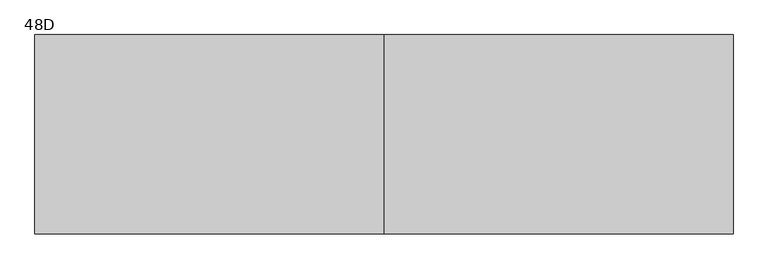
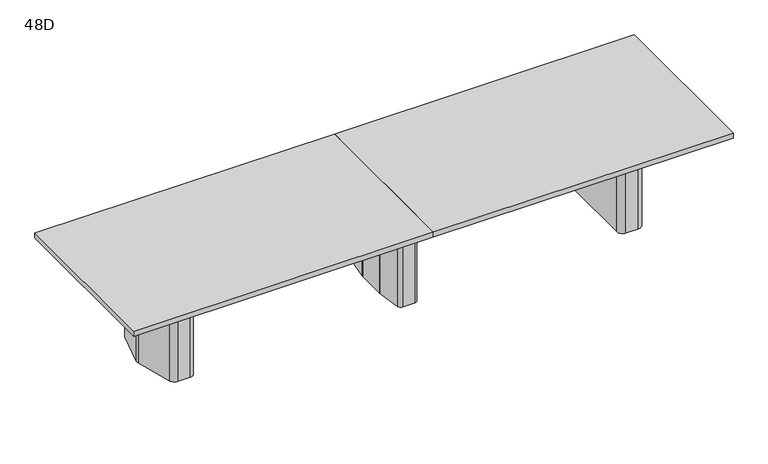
"""IFC4 building model written with IfcOpenShell, lengths in millimetres: furniture geometry, Coalesse_AM_Table_Conference_ETable2_Rectangular_14ft_ThreeBase : 48D."""

from ifc_helpers import new_model, si_unit, frame, origin, place, context, project, spatial, polyline, circle_curve, outline, extrude, source, transform, mapped, element, save
from ifc_brep_helpers import plane_surface, cylinder_surface, revolved_surface, advanced_brep


def furniture_48d_ae206274(model_context):
    return source(origin(), model_context, "Body", "SolidModel", [
        advanced_brep(
        [(35.71875, 206.375, 3.175), (10.31875, 231.775, 3.175), (-10.31875, 231.775, 3.175), (-35.71875, 206.375, 3.175), (-35.71875, -206.375, 3.175), (-10.31875, -231.775, 3.175), (10.31875, -231.775, 3.175), (35.71875, -206.375, 3.175), (-61.11875, 206.375, 0.0), (-10.31875, 257.175, 0.0), (10.31875, 257.175, 0.0), (61.11875, 206.375, 0.0), (61.11875, -206.375, 0.0), (10.31875, -257.175, 0.0), (-10.31875, -257.175, 0.0), (-61.11875, -206.375, 0.0), (-61.11875, -206.375, 3.175), (-61.11875, 206.375, 3.175), (-10.31875, -257.175, 3.175), (10.31875, -257.175, 3.175), (61.11875, -206.375, 3.175), (61.11875, 206.375, 3.175), (10.31875, 257.175, 3.175), (-10.31875, 257.175, 3.175), (-92.6215974, 106.2976848, 698.5), (-92.86875, 102.7629613, 698.5), (-92.86875, -102.7629613, 698.5), (-92.6215974, -106.2976848, 698.5), (-67.7988375, -282.9347235, 698.5), (-42.6459902, -304.8, 698.5), (42.6459902, -304.8, 698.5), (67.7988375, -282.9347235, 698.5), (92.6215974, -106.2976848, 698.5), (92.86875, -102.7629613, 698.5), (92.86875, 102.7629613, 698.5), (92.6215974, 106.2976848, 698.5), (67.7988375, 282.9347235, 698.5), (42.6459902, 304.8, 698.5), (-42.6459902, 304.8, 698.5), (-67.7988375, 282.9347235, 698.5), (10.31875, 231.775, 698.5), (35.71875, 206.375, 698.5), (35.71875, -206.375, 698.5), (10.31875, -231.775, 698.5), (-10.31875, -231.775, 698.5), (-35.71875, -206.375, 698.5), (-35.71875, 206.375, 698.5), (-10.31875, 231.775, 698.5), (-92.6215974, 106.2976848, 3.175), (-67.7988375, 282.9347235, 3.175), (-42.6459902, 304.8, 3.175), (42.6459902, 304.8, 3.175), (67.7988375, 282.9347235, 3.175), (92.6215974, 106.2976848, 3.175), (92.86875, 102.7629613, 3.175), (92.86875, -102.7629613, 3.175), (92.6215974, -106.2976848, 3.175), (67.7988375, -282.9347235, 3.175), (42.6459902, -304.8, 3.175), (-42.6459902, -304.8, 3.175), (-67.7988375, -282.9347235, 3.175), (-92.6215974, -106.2976848, 3.175), (-92.86875, -102.7629613, 3.175), (-92.86875, 102.7629613, 3.175)],
        [
            (0, 1, circle_curve(frame((10.31875, 206.375, 3.175), z_axis=(0.0, 0.0, 1.0), x_axis=(1.0, 0.0, 0.0)), 25.4)),
            (1, 2),
            (2, 3, circle_curve(frame((-10.31875, 206.375, 3.175), z_axis=(0.0, 0.0, 1.0), x_axis=(1.0, 0.0, 0.0)), 25.4)),
            (3, 4),
            (4, 5, circle_curve(frame((-10.31875, -206.375, 3.175), z_axis=(0.0, 0.0, 1.0), x_axis=(1.0, 0.0, 0.0)), 25.4)),
            (5, 6),
            (6, 7, circle_curve(frame((10.31875, -206.375, 3.175), z_axis=(0.0, 0.0, 1.0), x_axis=(1.0, 0.0, 0.0)), 25.4)),
            (7, 0),
            (8, 9, circle_curve(frame((-10.31875, 206.375, 0.0), z_axis=(0.0, 0.0, -1.0), x_axis=(1.0, 0.0, 0.0)), 50.8)),
            (9, 10),
            (10, 11, circle_curve(frame((10.31875, 206.375, 0.0), z_axis=(0.0, 0.0, -1.0), x_axis=(1.0, 0.0, 0.0)), 50.8)),
            (11, 12),
            (12, 13, circle_curve(frame((10.31875, -206.375, 0.0), z_axis=(0.0, 0.0, -1.0), x_axis=(1.0, 0.0, 0.0)), 50.8)),
            (13, 14),
            (14, 15, circle_curve(frame((-10.31875, -206.375, 0.0), z_axis=(0.0, 0.0, -1.0), x_axis=(1.0, 0.0, 0.0)), 50.8)),
            (15, 8),
            (15, 16),
            (16, 17),
            (17, 8),
            (14, 18),
            (18, 16, circle_curve(frame((-10.31875, -206.375, 3.175), z_axis=(0.0, 0.0, -1.0), x_axis=(1.0, 0.0, 0.0)), 50.8)),
            (13, 19),
            (19, 18),
            (12, 20),
            (20, 19, circle_curve(frame((10.31875, -206.375, 3.175), z_axis=(0.0, 0.0, -1.0), x_axis=(1.0, 0.0, 0.0)), 50.8)),
            (11, 21),
            (21, 20),
            (10, 22),
            (22, 21, circle_curve(frame((10.31875, 206.375, 3.175), z_axis=(0.0, 0.0, -1.0), x_axis=(1.0, 0.0, 0.0)), 50.8)),
            (9, 23),
            (23, 22),
            (17, 23, circle_curve(frame((-10.31875, 206.375, 3.175), z_axis=(0.0, 0.0, -1.0), x_axis=(1.0, 0.0, 0.0)), 50.8)),
            (24, 25, circle_curve(frame((-67.46875, 102.7629613, 698.5), z_axis=(0.0, 0.0, 1.0), x_axis=(1.0, 0.0, 0.0)), 25.4)),
            (25, 26),
            (26, 27, circle_curve(frame((-67.46875, -102.7629613, 698.5), z_axis=(0.0, 0.0, 1.0), x_axis=(1.0, 0.0, 0.0)), 25.4)),
            (27, 28),
            (28, 29, circle_curve(frame((-42.6459902, -279.4, 698.5), z_axis=(0.0, 0.0, 1.0), x_axis=(1.0, 0.0, 0.0)), 25.4)),
            (29, 30),
            (30, 31, circle_curve(frame((42.6459902, -279.4, 698.5), z_axis=(0.0, 0.0, 1.0), x_axis=(1.0, 0.0, 0.0)), 25.4)),
            (31, 32),
            (32, 33, circle_curve(frame((67.46875, -102.7629613, 698.5), z_axis=(0.0, 0.0, 1.0), x_axis=(1.0, 0.0, 0.0)), 25.4)),
            (33, 34),
            (34, 35, circle_curve(frame((67.46875, 102.7629613, 698.5), z_axis=(0.0, 0.0, 1.0), x_axis=(1.0, 0.0, 0.0)), 25.4)),
            (35, 36),
            (36, 37, circle_curve(frame((42.6459902, 279.4, 698.5), z_axis=(0.0, 0.0, 1.0), x_axis=(1.0, 0.0, 0.0)), 25.4)),
            (37, 38),
            (38, 39, circle_curve(frame((-42.6459902, 279.4, 698.5), z_axis=(0.0, 0.0, 1.0), x_axis=(1.0, 0.0, 0.0)), 25.4)),
            (39, 24),
            (40, 41, circle_curve(frame((10.31875, 206.375, 698.5), z_axis=(0.0, 0.0, -1.0), x_axis=(1.0, 0.0, 0.0)), 25.4)),
            (41, 42),
            (42, 43, circle_curve(frame((10.31875, -206.375, 698.5), z_axis=(0.0, 0.0, -1.0), x_axis=(1.0, 0.0, 0.0)), 25.4)),
            (43, 44),
            (44, 45, circle_curve(frame((-10.31875, -206.375, 698.5), z_axis=(0.0, 0.0, -1.0), x_axis=(1.0, 0.0, 0.0)), 25.4)),
            (45, 46),
            (46, 47, circle_curve(frame((-10.31875, 206.375, 698.5), z_axis=(0.0, 0.0, -1.0), x_axis=(1.0, 0.0, 0.0)), 25.4)),
            (47, 40),
            (48, 49),
            (49, 50, circle_curve(frame((-42.6459902, 279.4, 3.175), z_axis=(0.0, 0.0, -1.0), x_axis=(1.0, 0.0, 0.0)), 25.4)),
            (50, 51),
            (51, 52, circle_curve(frame((42.6459902, 279.4, 3.175), z_axis=(0.0, 0.0, -1.0), x_axis=(1.0, 0.0, 0.0)), 25.4)),
            (52, 53),
            (53, 54, circle_curve(frame((67.46875, 102.7629613, 3.175), z_axis=(0.0, 0.0, -1.0), x_axis=(1.0, 0.0, 0.0)), 25.4)),
            (54, 55),
            (55, 56, circle_curve(frame((67.46875, -102.7629613, 3.175), z_axis=(0.0, 0.0, -1.0), x_axis=(1.0, 0.0, 0.0)), 25.4)),
            (56, 57),
            (57, 58, circle_curve(frame((42.6459902, -279.4, 3.175), z_axis=(0.0, 0.0, -1.0), x_axis=(1.0, 0.0, 0.0)), 25.4)),
            (58, 59),
            (59, 60, circle_curve(frame((-42.6459902, -279.4, 3.175), z_axis=(0.0, 0.0, -1.0), x_axis=(1.0, 0.0, 0.0)), 25.4)),
            (60, 61),
            (61, 62, circle_curve(frame((-67.46875, -102.7629613, 3.175), z_axis=(0.0, 0.0, -1.0), x_axis=(1.0, 0.0, 0.0)), 25.4)),
            (62, 63),
            (63, 48, circle_curve(frame((-67.46875, 102.7629613, 3.175), z_axis=(0.0, 0.0, -1.0), x_axis=(1.0, 0.0, 0.0)), 25.4)),
            (24, 48),
            (63, 25),
            (62, 26),
            (61, 27),
            (60, 28),
            (59, 29),
            (58, 30),
            (57, 31),
            (56, 32),
            (55, 33),
            (54, 34),
            (53, 35),
            (52, 36),
            (51, 37),
            (50, 38),
            (49, 39),
            (40, 1),
            (0, 41),
            (7, 42),
            (6, 43),
            (5, 44),
            (4, 45),
            (3, 46),
            (2, 47),
        ],
        [
            plane_surface(frame((-61.11875, -206.375, 3.175), z_axis=(0.0, 0.0, 1.0), x_axis=(0.0, -1.0, 0.0))),
            plane_surface(frame((-61.11875, -206.375, 0.0), z_axis=(0.0, 0.0, -1.0), x_axis=(0.0, 1.0, 0.0))),
            plane_surface(frame((-61.11875, 206.375, 3.175), z_axis=(-1.0, 0.0, 0.0), x_axis=(0.0, 0.0, -1.0))),
            cylinder_surface(frame((-10.31875, -206.375, 0.0), z_axis=(0.0, 0.0, 1.0), x_axis=(1.0, 0.0, 0.0)), 50.8),
            plane_surface(frame((-10.31875, -257.175, 3.175), z_axis=(0.0, -1.0, 0.0), x_axis=(0.0, 0.0, -1.0))),
            cylinder_surface(frame((10.31875, -206.375, 0.0), z_axis=(0.0, 0.0, 1.0), x_axis=(1.0, 0.0, 0.0)), 50.8),
            plane_surface(frame((61.11875, -206.375, 3.175), z_axis=(1.0, 0.0, 0.0), x_axis=(0.0, 0.0, -1.0))),
            cylinder_surface(frame((10.31875, 206.375, 0.0), z_axis=(0.0, 0.0, 1.0), x_axis=(1.0, 0.0, 0.0)), 50.8),
            plane_surface(frame((10.31875, 257.175, 3.175), z_axis=(0.0, 1.0, 0.0), x_axis=(0.0, 0.0, -1.0))),
            cylinder_surface(frame((-10.31875, 206.375, 0.0), z_axis=(0.0, 0.0, 1.0), x_axis=(1.0, 0.0, 0.0)), 50.8),
            plane_surface(frame((-42.06875, 102.7629613, 698.5), z_axis=(0.0, 0.0, 1.0), x_axis=(0.0, 1.0, 0.0))),
            plane_surface(frame((-42.06875, 102.7629613, 3.175), z_axis=(0.0, 0.0, -1.0), x_axis=(0.0, -1.0, 0.0))),
            cylinder_surface(frame((-67.46875, 102.7629613, 3.175), z_axis=(0.0, 0.0, 1.0), x_axis=(1.0, 0.0, 0.0)), 25.4),
            plane_surface(frame((-92.86875, 102.7629613, 698.5), z_axis=(-1.0, 0.0, 0.0), x_axis=(0.0, 0.0, -1.0))),
            cylinder_surface(frame((-67.46875, -102.7629613, 3.175), z_axis=(0.0, 0.0, 1.0), x_axis=(1.0, 0.0, 0.0)), 25.4),
            plane_surface(frame((-92.6215974, -106.2976848, 698.5), z_axis=(-0.9902695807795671, -0.13916234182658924, 0.0), x_axis=(0.0, 0.0, -1.0))),
            cylinder_surface(frame((-42.6459902, -279.4, 3.175), z_axis=(0.0, 0.0, 1.0), x_axis=(1.0, 0.0, 0.0)), 25.4),
            plane_surface(frame((-42.6459902, -304.8, 698.5), z_axis=(0.0, -1.0, 0.0), x_axis=(0.0, 0.0, -1.0))),
            cylinder_surface(frame((42.6459902, -279.4, 3.175), z_axis=(0.0, 0.0, 1.0), x_axis=(1.0, 0.0, 0.0)), 25.4),
            plane_surface(frame((67.7988375, -282.9347235, 698.5), z_axis=(0.9902695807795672, -0.13916234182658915, 0.0), x_axis=(0.0, 0.0, -1.0))),
            cylinder_surface(frame((67.46875, -102.7629613, 3.175), z_axis=(0.0, 0.0, 1.0), x_axis=(1.0, 0.0, 0.0)), 25.4),
            plane_surface(frame((92.86875, -102.7629613, 698.5), z_axis=(1.0, 0.0, 0.0), x_axis=(0.0, 0.0, -1.0))),
            cylinder_surface(frame((67.46875, 102.7629613, 3.175), z_axis=(0.0, 0.0, 1.0), x_axis=(1.0, 0.0, 0.0)), 25.4),
            plane_surface(frame((92.6215974, 106.2976848, 698.5), z_axis=(0.9902695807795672, 0.1391623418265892, 0.0), x_axis=(0.0, 0.0, -1.0))),
            cylinder_surface(frame((42.6459902, 279.4, 3.175), z_axis=(0.0, 0.0, 1.0), x_axis=(1.0, 0.0, 0.0)), 25.4),
            plane_surface(frame((42.6459902, 304.8, 698.5), z_axis=(0.0, 1.0, 0.0), x_axis=(0.0, 0.0, -1.0))),
            cylinder_surface(frame((-42.6459902, 279.4, 3.175), z_axis=(0.0, 0.0, 1.0), x_axis=(1.0, 0.0, 0.0)), 25.4),
            plane_surface(frame((-67.7988375, 282.9347235, 698.5), z_axis=(-0.9902695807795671, 0.13916234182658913, 0.0), x_axis=(0.0, 0.0, -1.0))),
            revolved_surface(polyline([(35.71875, 206.375, 3.175), (35.71875, 206.375, 698.5)]), (10.31875, 206.375, 0.0), (0.0, 0.0, -1.0)),
            plane_surface(frame((35.71875, 206.375, 698.5), z_axis=(-1.0, 0.0, 0.0), x_axis=(0.0, 0.0, -1.0))),
            revolved_surface(polyline([(35.71875, -206.375, 3.175), (35.71875, -206.375, 698.5)]), (10.31875, -206.375, 0.0), (0.0, 0.0, -1.0)),
            plane_surface(frame((10.31875, -231.775, 698.5), z_axis=(0.0, 1.0, 0.0), x_axis=(0.0, 0.0, -1.0))),
            revolved_surface(polyline([(15.081249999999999, -206.375, 3.175), (15.081249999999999, -206.375, 698.5)]), (-10.31875, -206.375, 0.0), (0.0, 0.0, -1.0)),
            plane_surface(frame((-35.71875, -206.375, 698.5), z_axis=(1.0, 0.0, 0.0), x_axis=(0.0, 0.0, -1.0))),
            revolved_surface(polyline([(15.081249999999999, 206.375, 3.175), (15.081249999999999, 206.375, 698.5)]), (-10.31875, 206.375, 0.0), (0.0, 0.0, -1.0)),
            plane_surface(frame((-10.31875, 231.775, 698.5), z_axis=(0.0, -1.0, 0.0), x_axis=(0.0, 0.0, -1.0))),
        ],
        [
            (0, [[1, 2, 3, 4, 5, 6, 7, 8]]),
            (1, [[9, 10, 11, 12, 13, 14, 15, 16]]),
            (2, [[-16, 17, 18, 19]]),
            (3, [[-15, 20, 21, -17]]),
            (4, [[-14, 22, 23, -20]]),
            (5, [[-13, 24, 25, -22]]),
            (6, [[-12, 26, 27, -24]]),
            (7, [[-11, 28, 29, -26]]),
            (8, [[-10, 30, 31, -28]]),
            (9, [[-9, -19, 32, -30]]),
            (10, [[33, 34, 35, 36, 37, 38, 39, 40, 41, 42, 43, 44, 45, 46, 47, 48], [49, 50, 51, 52, 53, 54, 55, 56]]),
            (11, [[57, 58, 59, 60, 61, 62, 63, 64, 65, 66, 67, 68, 69, 70, 71, 72], [-18, -21, -23, -25, -27, -29, -31, -32]]),
            (12, [[-33, 73, -72, 74]]),
            (13, [[-34, -74, -71, 75]]),
            (14, [[-35, -75, -70, 76]]),
            (15, [[-36, -76, -69, 77]]),
            (16, [[-37, -77, -68, 78]]),
            (17, [[-38, -78, -67, 79]]),
            (18, [[-39, -79, -66, 80]]),
            (19, [[-40, -80, -65, 81]]),
            (20, [[-41, -81, -64, 82]]),
            (21, [[-42, -82, -63, 83]]),
            (22, [[-43, -83, -62, 84]]),
            (23, [[-44, -84, -61, 85]]),
            (24, [[-45, -85, -60, 86]]),
            (25, [[-46, -86, -59, 87]]),
            (26, [[-47, -87, -58, 88]]),
            (27, [[-48, -88, -57, -73]]),
            (28, [[-49, 89, -1, 90]]),
            (29, [[-50, -90, -8, 91]]),
            (30, [[-51, -91, -7, 92]]),
            (31, [[-52, -92, -6, 93]]),
            (32, [[-53, -93, -5, 94]]),
            (33, [[-54, -94, -4, 95]]),
            (34, [[-55, -95, -3, 96]]),
            (35, [[-56, -96, -2, -89]]),
        ],
    ),
        advanced_brep(
        [(1675.024548, 274.2093613, 698.5), (1635.1579246, 304.8, 698.5), (1546.225, 304.8, 698.5), (1504.95, 263.525, 698.5), (1504.95, -263.525, 698.5), (1546.225, -304.8, 698.5), (1635.1579246, -304.8, 698.5), (1675.024548, -274.2093613, 698.5), (1745.6503901, -10.6333708, 698.5), (1745.6503901, 10.6333708, 698.5), (1543.05, -206.375, 698.5), (1543.05, 206.375, 698.5), (1568.45, 231.775, 698.5), (1627.4608422, 231.775, 698.5), (1651.995338, 212.9490792, 698.5), (1690.6875, 68.54974, 698.5), (1690.6875, -68.54974, 698.5), (1651.995338, -212.9490792, 698.5), (1627.4608422, -231.775, 698.5), (1568.45, -231.775, 698.5), (1675.024548, 274.2093613, 3.175), (1745.6503901, 10.6333708, 3.175), (1745.6503901, -10.6333708, 3.175), (1675.024548, -274.2093613, 3.175), (1635.1579246, -304.8, 3.175), (1546.225, -304.8, 3.175), (1504.95, -263.525, 3.175), (1504.95, 263.525, 3.175), (1546.225, 304.8, 3.175), (1635.1579246, 304.8, 3.175), (1664.2625859, 216.2361187, 3.175), (1627.4608422, 244.475, 3.175), (1568.45, 244.475, 3.175), (1530.35, 206.375, 3.175), (1530.35, -206.375, 3.175), (1568.45, -244.475, 3.175), (1627.4608422, -244.475, 3.175), (1664.2625859, -216.2361187, 3.175), (1703.3875, -70.2217466, 3.175), (1703.3875, 70.2217466, 3.175), (1568.45, -231.775, 3.175), (1543.05, -206.375, 3.175), (1627.4608422, -231.775, 3.175), (1651.995338, -212.9490792, 3.175), (1690.6875, -68.54974, 3.175), (1690.6875, 68.54974, 3.175), (1651.995338, 212.9490792, 3.175), (1627.4608422, 231.775, 3.175), (1568.45, 231.775, 3.175), (1543.05, 206.375, 3.175), (1664.2625859, 216.2361187, 0.0), (1703.3875, 70.2217466, 0.0), (1703.3875, -70.2217466, 0.0), (1664.2625859, -216.2361187, 0.0), (1627.4608422, -244.475, 0.0), (1568.45, -244.475, 0.0), (1530.35, -206.375, 0.0), (1530.35, 206.375, 0.0), (1568.45, 244.475, 0.0), (1627.4608422, 244.475, 0.0)],
        [
            (0, 1, circle_curve(frame((1635.1579246, 263.5270004, 698.5), z_axis=(0.0, 0.0, 1.0), x_axis=(-1.0, 0.0, 0.0)), 41.2729996)),
            (1, 2),
            (2, 3, circle_curve(frame((1546.225, 263.525, 698.5), z_axis=(0.0, 0.0, 1.0), x_axis=(-1.0, 0.0, 0.0)), 41.275)),
            (3, 4),
            (4, 5, circle_curve(frame((1546.225, -263.525, 698.5), z_axis=(0.0, 0.0, 1.0), x_axis=(-1.0, 0.0, 0.0)), 41.275)),
            (5, 6),
            (6, 7, circle_curve(frame((1635.1579246, -263.5270004, 698.5), z_axis=(0.0, 0.0, 1.0), x_axis=(-1.0, 0.0, 0.0)), 41.2729996)),
            (7, 8),
            (8, 9, circle_curve(frame((1705.9665979, 0.0, 698.5), z_axis=(0.0, 0.0, 1.0), x_axis=(-1.0, 0.0, 0.0)), 41.0837187)),
            (9, 0),
            (10, 11),
            (11, 12, circle_curve(frame((1568.45, 206.375, 698.5), z_axis=(0.0, 0.0, -1.0), x_axis=(-1.0, 0.0, 0.0)), 25.4)),
            (12, 13),
            (13, 14, circle_curve(frame((1627.4608422, 206.375, 698.5), z_axis=(0.0, 0.0, -1.0), x_axis=(-1.0, 0.0, 0.0)), 25.4)),
            (14, 15),
            (15, 16),
            (16, 17),
            (17, 18, circle_curve(frame((1627.4608422, -206.375, 698.5), z_axis=(0.0, 0.0, -1.0), x_axis=(-1.0, 0.0, 0.0)), 25.4)),
            (18, 19),
            (19, 10, circle_curve(frame((1568.45, -206.375, 698.5), z_axis=(0.0, 0.0, -1.0), x_axis=(-1.0, 0.0, 0.0)), 25.4)),
            (20, 21),
            (21, 22, circle_curve(frame((1705.9665979, 0.0, 3.175), z_axis=(0.0, 0.0, -1.0), x_axis=(-1.0, 0.0, 0.0)), 41.0837187)),
            (22, 23),
            (23, 24, circle_curve(frame((1635.1579246, -263.5270004, 3.175), z_axis=(0.0, 0.0, -1.0), x_axis=(-1.0, 0.0, 0.0)), 41.2729996)),
            (24, 25),
            (25, 26, circle_curve(frame((1546.225, -263.525, 3.175), z_axis=(0.0, 0.0, -1.0), x_axis=(-1.0, 0.0, 0.0)), 41.275)),
            (26, 27),
            (27, 28, circle_curve(frame((1546.225, 263.525, 3.175), z_axis=(0.0, 0.0, -1.0), x_axis=(-1.0, 0.0, 0.0)), 41.275)),
            (28, 29),
            (29, 20, circle_curve(frame((1635.1579246, 263.5270004, 3.175), z_axis=(0.0, 0.0, -1.0), x_axis=(-1.0, 0.0, 0.0)), 41.2729996)),
            (30, 31, circle_curve(frame((1627.4608422, 206.375, 3.175), z_axis=(0.0, 0.0, 1.0), x_axis=(-1.0, 0.0, 0.0)), 38.1)),
            (31, 32),
            (32, 33, circle_curve(frame((1568.45, 206.375, 3.175), z_axis=(0.0, 0.0, 1.0), x_axis=(-1.0, 0.0, 0.0)), 38.1)),
            (33, 34),
            (34, 35, circle_curve(frame((1568.45, -206.375, 3.175), z_axis=(0.0, 0.0, 1.0), x_axis=(-1.0, 0.0, 0.0)), 38.1)),
            (35, 36),
            (36, 37, circle_curve(frame((1627.4608422, -206.375, 3.175), z_axis=(0.0, 0.0, 1.0), x_axis=(-1.0, 0.0, 0.0)), 38.1)),
            (37, 38),
            (38, 39),
            (39, 30),
            (9, 21),
            (20, 0),
            (8, 22),
            (7, 23),
            (6, 24),
            (5, 25),
            (4, 26),
            (3, 27),
            (2, 28),
            (1, 29),
            (19, 40),
            (40, 41, circle_curve(frame((1568.45, -206.375, 3.175), z_axis=(0.0, 0.0, -1.0), x_axis=(-1.0, 0.0, 0.0)), 25.4)),
            (41, 10),
            (18, 42),
            (42, 40),
            (17, 43),
            (43, 42, circle_curve(frame((1627.4608422, -206.375, 3.175), z_axis=(0.0, 0.0, -1.0), x_axis=(-1.0, 0.0, 0.0)), 25.4)),
            (16, 44),
            (44, 43),
            (15, 45),
            (45, 44),
            (14, 46),
            (46, 45),
            (13, 47),
            (47, 46, circle_curve(frame((1627.4608422, 206.375, 3.175), z_axis=(0.0, 0.0, -1.0), x_axis=(-1.0, 0.0, 0.0)), 25.4)),
            (12, 48),
            (48, 47),
            (11, 49),
            (49, 48, circle_curve(frame((1568.45, 206.375, 3.175), z_axis=(0.0, 0.0, -1.0), x_axis=(-1.0, 0.0, 0.0)), 25.4)),
            (41, 49),
            (50, 51),
            (51, 52),
            (52, 53),
            (53, 54, circle_curve(frame((1627.4608422, -206.375, 0.0), z_axis=(0.0, 0.0, -1.0), x_axis=(-1.0, 0.0, 0.0)), 38.1)),
            (54, 55),
            (55, 56, circle_curve(frame((1568.45, -206.375, 0.0), z_axis=(0.0, 0.0, -1.0), x_axis=(-1.0, 0.0, 0.0)), 38.1)),
            (56, 57),
            (57, 58, circle_curve(frame((1568.45, 206.375, 0.0), z_axis=(0.0, 0.0, -1.0), x_axis=(-1.0, 0.0, 0.0)), 38.1)),
            (58, 59),
            (59, 50, circle_curve(frame((1627.4608422, 206.375, 0.0), z_axis=(0.0, 0.0, -1.0), x_axis=(-1.0, 0.0, 0.0)), 38.1)),
            (50, 30),
            (39, 51),
            (38, 52),
            (37, 53),
            (36, 54),
            (35, 55),
            (34, 56),
            (33, 57),
            (32, 58),
            (31, 59),
        ],
        [
            plane_surface(frame((1745.6374275, 10.6817473, 698.5), z_axis=(0.0, 0.0, 1.0000000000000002), x_axis=(0.25882201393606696, -0.9659250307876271, 0.0))),
            plane_surface(frame((1745.6374275, 10.6817473, 3.175), z_axis=(0.0, 0.0, -1.0000000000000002), x_axis=(-0.25882201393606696, 0.9659250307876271, 0.0))),
            plane_surface(frame((1675.024548, 274.2093613, 698.5), z_axis=(0.9659250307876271, 0.25882201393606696, 0.0), x_axis=(0.0, 0.0, -1.0))),
            cylinder_surface(frame((1705.9665979, 0.0, 3.175), z_axis=(0.0, 0.0, 1.0), x_axis=(-1.0, 0.0, 0.0)), 41.0837187),
            plane_surface(frame((1745.6503901, -10.6333708, 698.5), z_axis=(0.9659250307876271, -0.2588220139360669, 0.0), x_axis=(0.0, 0.0, -1.0))),
            cylinder_surface(frame((1635.1579246, -263.5270004, 3.175), z_axis=(0.0, 0.0, 1.0), x_axis=(-1.0, 0.0, 0.0)), 41.2729996),
            plane_surface(frame((1635.1579246, -304.8, 698.5), z_axis=(0.0, -1.0, 0.0), x_axis=(0.0, 0.0, -1.0))),
            cylinder_surface(frame((1546.225, -263.525, 3.175), z_axis=(0.0, 0.0, 1.0), x_axis=(-1.0, 0.0, 0.0)), 41.275),
            plane_surface(frame((1504.95, -263.525, 698.5), z_axis=(-1.0, 0.0, 0.0), x_axis=(0.0, 0.0, -1.0))),
            cylinder_surface(frame((1546.225, 263.525, 3.175), z_axis=(0.0, 0.0, 1.0), x_axis=(-1.0, 0.0, 0.0)), 41.275),
            plane_surface(frame((1546.225, 304.8, 698.5), z_axis=(0.0, 1.0, 0.0), x_axis=(0.0, 0.0, -1.0))),
            cylinder_surface(frame((1635.1579246, 263.5270004, 3.175), z_axis=(0.0, 0.0, 1.0), x_axis=(-1.0, 0.0, 0.0)), 41.2729996),
            revolved_surface(polyline([(1543.05, -206.375, 3.175), (1543.05, -206.375, 698.5)]), (1568.45, -206.375, 0.0), (0.0, 0.0, -1.0)),
            plane_surface(frame((1568.45, -231.775, 698.5), z_axis=(0.0, 1.0, 0.0), x_axis=(0.0, 0.0, -1.0))),
            revolved_surface(polyline([(1602.0608421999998, -206.375, 3.175), (1602.0608421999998, -206.375, 698.5)]), (1627.4608422, -206.375, 0.0), (0.0, 0.0, -1.0)),
            plane_surface(frame((1651.995338, -212.9490792, 698.5), z_axis=(-0.9659250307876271, 0.2588220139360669, 0.0), x_axis=(0.0, 0.0, -1.0))),
            plane_surface(frame((1690.6875, -68.54974, 698.5), z_axis=(-1.0, 0.0, 0.0), x_axis=(0.0, 0.0, -1.0))),
            plane_surface(frame((1690.6875, 68.54974, 698.5), z_axis=(-0.9659250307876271, -0.25882201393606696, 0.0), x_axis=(0.0, 0.0, -1.0))),
            revolved_surface(polyline([(1602.0608421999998, 206.375, 3.175), (1602.0608421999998, 206.375, 698.5)]), (1627.4608422, 206.375, 0.0), (0.0, 0.0, -1.0)),
            plane_surface(frame((1627.4608422, 231.775, 698.5), z_axis=(0.0, -1.0, 0.0), x_axis=(0.0, 0.0, -1.0))),
            revolved_surface(polyline([(1543.05, 206.375, 3.175), (1543.05, 206.375, 698.5)]), (1568.45, 206.375, 0.0), (0.0, 0.0, -1.0)),
            plane_surface(frame((1543.05, 206.375, 698.5), z_axis=(1.0, 0.0, 0.0), x_axis=(0.0, 0.0, -1.0))),
            plane_surface(frame((1702.9547479, 71.8367796, 3.175), z_axis=(0.0, 0.0, 1.0), x_axis=(0.25882201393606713, -0.965925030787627, 0.0))),
            plane_surface(frame((1702.9547479, 71.8367796, 0.0), z_axis=(0.0, 0.0, -1.0), x_axis=(-0.25882201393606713, 0.965925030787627, 0.0))),
            plane_surface(frame((1664.2625859, 216.2361187, 3.175), z_axis=(0.965925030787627, 0.25882201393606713, 0.0), x_axis=(0.0, 0.0, -1.0))),
            plane_surface(frame((1703.3875, 70.2217466, 3.175), z_axis=(1.0, 0.0, 0.0), x_axis=(0.0, 0.0, -1.0))),
            plane_surface(frame((1703.3875, -70.2217466, 3.175), z_axis=(0.9659250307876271, -0.2588220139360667, 0.0), x_axis=(0.0, 0.0, -1.0))),
            cylinder_surface(frame((1627.4608422, -206.375, 0.0), z_axis=(0.0, 0.0, 1.0), x_axis=(-1.0, 0.0, 0.0)), 38.1),
            plane_surface(frame((1627.4608422, -244.475, 3.175), z_axis=(0.0, -1.0, 0.0), x_axis=(0.0, 0.0, -1.0))),
            cylinder_surface(frame((1568.45, -206.375, 0.0), z_axis=(0.0, 0.0, 1.0), x_axis=(-1.0, 0.0, 0.0)), 38.1),
            plane_surface(frame((1530.35, -206.375, 3.175), z_axis=(-1.0, 0.0, 0.0), x_axis=(0.0, 0.0, -1.0))),
            cylinder_surface(frame((1568.45, 206.375, 0.0), z_axis=(0.0, 0.0, 1.0), x_axis=(-1.0, 0.0, 0.0)), 38.1),
            plane_surface(frame((1568.45, 244.475, 3.175), z_axis=(0.0, 1.0, 0.0), x_axis=(0.0, 0.0, -1.0))),
            cylinder_surface(frame((1627.4608422, 206.375, 0.0), z_axis=(0.0, 0.0, 1.0), x_axis=(-1.0, 0.0, 0.0)), 38.1),
        ],
        [
            (0, [[1, 2, 3, 4, 5, 6, 7, 8, 9, 10], [11, 12, 13, 14, 15, 16, 17, 18, 19, 20]]),
            (1, [[21, 22, 23, 24, 25, 26, 27, 28, 29, 30], [31, 32, 33, 34, 35, 36, 37, 38, 39, 40]]),
            (2, [[41, -21, 42, -10]]),
            (3, [[43, -22, -41, -9]]),
            (4, [[44, -23, -43, -8]]),
            (5, [[45, -24, -44, -7]]),
            (6, [[46, -25, -45, -6]]),
            (7, [[47, -26, -46, -5]]),
            (8, [[48, -27, -47, -4]]),
            (9, [[49, -28, -48, -3]]),
            (10, [[50, -29, -49, -2]]),
            (11, [[-42, -30, -50, -1]]),
            (12, [[51, 52, 53, -20]]),
            (13, [[54, 55, -51, -19]]),
            (14, [[56, 57, -54, -18]]),
            (15, [[58, 59, -56, -17]]),
            (16, [[60, 61, -58, -16]]),
            (17, [[62, 63, -60, -15]]),
            (18, [[64, 65, -62, -14]]),
            (19, [[66, 67, -64, -13]]),
            (20, [[68, 69, -66, -12]]),
            (21, [[-53, 70, -68, -11]]),
            (22, [[-55, -57, -59, -61, -63, -65, -67, -69, -70, -52]]),
            (23, [[71, 72, 73, 74, 75, 76, 77, 78, 79, 80]]),
            (24, [[81, -40, 82, -71]]),
            (25, [[-82, -39, 83, -72]]),
            (26, [[-83, -38, 84, -73]]),
            (27, [[-84, -37, 85, -74]]),
            (28, [[-85, -36, 86, -75]]),
            (29, [[-86, -35, 87, -76]]),
            (30, [[-87, -34, 88, -77]]),
            (31, [[-88, -33, 89, -78]]),
            (32, [[-89, -32, 90, -79]]),
            (33, [[-90, -31, -81, -80]]),
        ],
    ),
        advanced_brep(
        [(-1686.137048, 274.2093613, 698.5), (-1756.7628901, 10.6333708, 698.5), (-1756.7628901, -10.6333708, 698.5), (-1686.137048, -274.2093613, 698.5), (-1646.2704246, -304.8, 698.5), (-1557.3375, -304.8, 698.5), (-1516.0625, -263.525, 698.5), (-1516.0625, 263.525, 698.5), (-1557.3375, 304.8, 698.5), (-1646.2704246, 304.8, 698.5), (-1554.1625, -206.375, 698.5), (-1579.5625, -231.775, 698.5), (-1638.5733422, -231.775, 698.5), (-1663.107838, -212.9490792, 698.5), (-1701.8, -68.54974, 698.5), (-1701.8, 68.54974, 698.5), (-1663.107838, 212.9490792, 698.5), (-1638.5733422, 231.775, 698.5), (-1579.5625, 231.775, 698.5), (-1554.1625, 206.375, 698.5), (-1686.137048, 274.2093613, 3.175), (-1646.2704246, 304.8, 3.175), (-1557.3375, 304.8, 3.175), (-1516.0625, 263.525, 3.175), (-1516.0625, -263.525, 3.175), (-1557.3375, -304.8, 3.175), (-1646.2704246, -304.8, 3.175), (-1686.137048, -274.2093613, 3.175), (-1756.7628901, -10.6333708, 3.175), (-1756.7628901, 10.6333708, 3.175), (-1675.3750859, 216.2361187, 3.175), (-1714.5, 70.2217466, 3.175), (-1714.5, -70.2217466, 3.175), (-1675.3750859, -216.2361187, 3.175), (-1638.5733422, -244.475, 3.175), (-1579.5625, -244.475, 3.175), (-1541.4625, -206.375, 3.175), (-1541.4625, 206.375, 3.175), (-1579.5625, 244.475, 3.175), (-1638.5733422, 244.475, 3.175), (-1554.1625, -206.375, 3.175), (-1579.5625, -231.775, 3.175), (-1638.5733422, -231.775, 3.175), (-1663.107838, -212.9490792, 3.175), (-1701.8, -68.54974, 3.175), (-1701.8, 68.54974, 3.175), (-1663.107838, 212.9490792, 3.175), (-1638.5733422, 231.775, 3.175), (-1579.5625, 231.775, 3.175), (-1554.1625, 206.375, 3.175), (-1675.3750859, 216.2361187, 0.0), (-1638.5733422, 244.475, 0.0), (-1579.5625, 244.475, 0.0), (-1541.4625, 206.375, 0.0), (-1541.4625, -206.375, 0.0), (-1579.5625, -244.475, 0.0), (-1638.5733422, -244.475, 0.0), (-1675.3750859, -216.2361187, 0.0), (-1714.5, -70.2217466, 0.0), (-1714.5, 70.2217466, 0.0)],
        [
            (0, 1),
            (1, 2, circle_curve(frame((-1717.0790979, 0.0, 698.5), z_axis=(0.0, 0.0, 1.0), x_axis=(1.0, 0.0, 0.0)), 41.0837187)),
            (2, 3),
            (3, 4, circle_curve(frame((-1646.2704246, -263.5270004, 698.5), z_axis=(0.0, 0.0, 1.0), x_axis=(1.0, 0.0, 0.0)), 41.2729996)),
            (4, 5),
            (5, 6, circle_curve(frame((-1557.3375, -263.525, 698.5), z_axis=(0.0, 0.0, 1.0), x_axis=(1.0, 0.0, 0.0)), 41.275)),
            (6, 7),
            (7, 8, circle_curve(frame((-1557.3375, 263.525, 698.5), z_axis=(0.0, 0.0, 1.0), x_axis=(1.0, 0.0, 0.0)), 41.275)),
            (8, 9),
            (9, 0, circle_curve(frame((-1646.2704246, 263.5270004, 698.5), z_axis=(0.0, 0.0, 1.0), x_axis=(1.0, 0.0, 0.0)), 41.2729996)),
            (10, 11, circle_curve(frame((-1579.5625, -206.375, 698.5), z_axis=(0.0, 0.0, -1.0), x_axis=(1.0, 0.0, 0.0)), 25.4)),
            (11, 12),
            (12, 13, circle_curve(frame((-1638.5733422, -206.375, 698.5), z_axis=(0.0, 0.0, -1.0), x_axis=(1.0, 0.0, 0.0)), 25.4)),
            (13, 14),
            (14, 15),
            (15, 16),
            (16, 17, circle_curve(frame((-1638.5733422, 206.375, 698.5), z_axis=(0.0, 0.0, -1.0), x_axis=(1.0, 0.0, 0.0)), 25.4)),
            (17, 18),
            (18, 19, circle_curve(frame((-1579.5625, 206.375, 698.5), z_axis=(0.0, 0.0, -1.0), x_axis=(1.0, 0.0, 0.0)), 25.4)),
            (19, 10),
            (20, 21, circle_curve(frame((-1646.2704246, 263.5270004, 3.175), z_axis=(0.0, 0.0, -1.0), x_axis=(1.0, 0.0, 0.0)), 41.2729996)),
            (21, 22),
            (22, 23, circle_curve(frame((-1557.3375, 263.525, 3.175), z_axis=(0.0, 0.0, -1.0), x_axis=(1.0, 0.0, 0.0)), 41.275)),
            (23, 24),
            (24, 25, circle_curve(frame((-1557.3375, -263.525, 3.175), z_axis=(0.0, 0.0, -1.0), x_axis=(1.0, 0.0, 0.0)), 41.275)),
            (25, 26),
            (26, 27, circle_curve(frame((-1646.2704246, -263.5270004, 3.175), z_axis=(0.0, 0.0, -1.0), x_axis=(1.0, 0.0, 0.0)), 41.2729996)),
            (27, 28),
            (28, 29, circle_curve(frame((-1717.0790979, 0.0, 3.175), z_axis=(0.0, 0.0, -1.0), x_axis=(1.0, 0.0, 0.0)), 41.0837187)),
            (29, 20),
            (30, 31),
            (31, 32),
            (32, 33),
            (33, 34, circle_curve(frame((-1638.5733422, -206.375, 3.175), z_axis=(0.0, 0.0, 1.0), x_axis=(1.0, 0.0, 0.0)), 38.1)),
            (34, 35),
            (35, 36, circle_curve(frame((-1579.5625, -206.375, 3.175), z_axis=(0.0, 0.0, 1.0), x_axis=(1.0, 0.0, 0.0)), 38.1)),
            (36, 37),
            (37, 38, circle_curve(frame((-1579.5625, 206.375, 3.175), z_axis=(0.0, 0.0, 1.0), x_axis=(1.0, 0.0, 0.0)), 38.1)),
            (38, 39),
            (39, 30, circle_curve(frame((-1638.5733422, 206.375, 3.175), z_axis=(0.0, 0.0, 1.0), x_axis=(1.0, 0.0, 0.0)), 38.1)),
            (0, 20),
            (29, 1),
            (28, 2),
            (27, 3),
            (26, 4),
            (25, 5),
            (24, 6),
            (23, 7),
            (22, 8),
            (21, 9),
            (10, 40),
            (40, 41, circle_curve(frame((-1579.5625, -206.375, 3.175), z_axis=(0.0, 0.0, -1.0), x_axis=(1.0, 0.0, 0.0)), 25.4)),
            (41, 11),
            (41, 42),
            (42, 12),
            (42, 43, circle_curve(frame((-1638.5733422, -206.375, 3.175), z_axis=(0.0, 0.0, -1.0), x_axis=(1.0, 0.0, 0.0)), 25.4)),
            (43, 13),
            (43, 44),
            (44, 14),
            (44, 45),
            (45, 15),
            (45, 46),
            (46, 16),
            (46, 47, circle_curve(frame((-1638.5733422, 206.375, 3.175), z_axis=(0.0, 0.0, -1.0), x_axis=(1.0, 0.0, 0.0)), 25.4)),
            (47, 17),
            (47, 48),
            (48, 18),
            (48, 49, circle_curve(frame((-1579.5625, 206.375, 3.175), z_axis=(0.0, 0.0, -1.0), x_axis=(1.0, 0.0, 0.0)), 25.4)),
            (49, 19),
            (49, 40),
            (50, 51, circle_curve(frame((-1638.5733422, 206.375, 0.0), z_axis=(0.0, 0.0, -1.0), x_axis=(1.0, 0.0, 0.0)), 38.1)),
            (51, 52),
            (52, 53, circle_curve(frame((-1579.5625, 206.375, 0.0), z_axis=(0.0, 0.0, -1.0), x_axis=(1.0, 0.0, 0.0)), 38.1)),
            (53, 54),
            (54, 55, circle_curve(frame((-1579.5625, -206.375, 0.0), z_axis=(0.0, 0.0, -1.0), x_axis=(1.0, 0.0, 0.0)), 38.1)),
            (55, 56),
            (56, 57, circle_curve(frame((-1638.5733422, -206.375, 0.0), z_axis=(0.0, 0.0, -1.0), x_axis=(1.0, 0.0, 0.0)), 38.1)),
            (57, 58),
            (58, 59),
            (59, 50),
            (59, 31),
            (30, 50),
            (58, 32),
            (57, 33),
            (56, 34),
            (55, 35),
            (54, 36),
            (53, 37),
            (52, 38),
            (51, 39),
        ],
        [
            plane_surface(frame((-1756.7499275, 10.6817473, 698.5), z_axis=(0.0, 0.0, 1.0000000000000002), x_axis=(-0.25882201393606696, -0.9659250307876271, 0.0))),
            plane_surface(frame((-1756.7499275, 10.6817473, 3.175), z_axis=(0.0, 0.0, -1.0000000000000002), x_axis=(0.25882201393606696, 0.9659250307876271, 0.0))),
            plane_surface(frame((-1686.137048, 274.2093613, 698.5), z_axis=(-0.9659250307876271, 0.25882201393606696, 0.0), x_axis=(0.0, 0.0, -1.0))),
            cylinder_surface(frame((-1717.0790979, 0.0, 3.175), z_axis=(0.0, 0.0, 1.0), x_axis=(1.0, 0.0, 0.0)), 41.0837187),
            plane_surface(frame((-1756.7628901, -10.6333708, 698.5), z_axis=(-0.9659250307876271, -0.2588220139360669, 0.0), x_axis=(0.0, 0.0, -1.0))),
            cylinder_surface(frame((-1646.2704246, -263.5270004, 3.175), z_axis=(0.0, 0.0, 1.0), x_axis=(1.0, 0.0, 0.0)), 41.2729996),
            plane_surface(frame((-1646.2704246, -304.8, 698.5), z_axis=(0.0, -1.0, 0.0), x_axis=(0.0, 0.0, -1.0))),
            cylinder_surface(frame((-1557.3375, -263.525, 3.175), z_axis=(0.0, 0.0, 1.0), x_axis=(1.0, 0.0, 0.0)), 41.275),
            plane_surface(frame((-1516.0625, -263.525, 698.5), z_axis=(1.0, 0.0, 0.0), x_axis=(0.0, 0.0, -1.0))),
            cylinder_surface(frame((-1557.3375, 263.525, 3.175), z_axis=(0.0, 0.0, 1.0), x_axis=(1.0, 0.0, 0.0)), 41.275),
            plane_surface(frame((-1557.3375, 304.8, 698.5), z_axis=(0.0, 1.0, 0.0), x_axis=(0.0, 0.0, -1.0))),
            cylinder_surface(frame((-1646.2704246, 263.5270004, 3.175), z_axis=(0.0, 0.0, 1.0), x_axis=(1.0, 0.0, 0.0)), 41.2729996),
            revolved_surface(polyline([(-1554.1625, -206.375, 3.175), (-1554.1625, -206.375, 698.5)]), (-1579.5625, -206.375, 0.0), (0.0, 0.0, -1.0)),
            plane_surface(frame((-1579.5625, -231.775, 698.5), z_axis=(0.0, 1.0, 0.0), x_axis=(0.0, 0.0, -1.0))),
            revolved_surface(polyline([(-1613.1733422, -206.375, 3.175), (-1613.1733422, -206.375, 698.5)]), (-1638.5733422, -206.375, 0.0), (0.0, 0.0, -1.0)),
            plane_surface(frame((-1663.107838, -212.9490792, 698.5), z_axis=(0.9659250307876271, 0.2588220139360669, 0.0), x_axis=(0.0, 0.0, -1.0))),
            plane_surface(frame((-1701.8, -68.54974, 698.5), z_axis=(1.0, 0.0, 0.0), x_axis=(0.0, 0.0, -1.0))),
            plane_surface(frame((-1701.8, 68.54974, 698.5), z_axis=(0.9659250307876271, -0.25882201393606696, 0.0), x_axis=(0.0, 0.0, -1.0))),
            revolved_surface(polyline([(-1613.1733422, 206.375, 3.175), (-1613.1733422, 206.375, 698.5)]), (-1638.5733422, 206.375, 0.0), (0.0, 0.0, -1.0)),
            plane_surface(frame((-1638.5733422, 231.775, 698.5), z_axis=(0.0, -1.0, 0.0), x_axis=(0.0, 0.0, -1.0))),
            revolved_surface(polyline([(-1554.1625, 206.375, 3.175), (-1554.1625, 206.375, 698.5)]), (-1579.5625, 206.375, 0.0), (0.0, 0.0, -1.0)),
            plane_surface(frame((-1554.1625, 206.375, 698.5), z_axis=(-1.0, 0.0, 0.0), x_axis=(0.0, 0.0, -1.0))),
            plane_surface(frame((-1714.0672479, 71.8367796, 3.175), z_axis=(0.0, 0.0, 1.0), x_axis=(-0.25882201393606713, -0.965925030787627, 0.0))),
            plane_surface(frame((-1714.0672479, 71.8367796, 0.0), z_axis=(0.0, 0.0, -1.0), x_axis=(0.25882201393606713, 0.965925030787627, 0.0))),
            plane_surface(frame((-1675.3750859, 216.2361187, 3.175), z_axis=(-0.965925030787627, 0.25882201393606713, 0.0), x_axis=(0.0, 0.0, -1.0))),
            plane_surface(frame((-1714.5, 70.2217466, 3.175), z_axis=(-1.0, 0.0, 0.0), x_axis=(0.0, 0.0, -1.0))),
            plane_surface(frame((-1714.5, -70.2217466, 3.175), z_axis=(-0.9659250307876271, -0.2588220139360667, 0.0), x_axis=(0.0, 0.0, -1.0))),
            cylinder_surface(frame((-1638.5733422, -206.375, 0.0), z_axis=(0.0, 0.0, 1.0), x_axis=(1.0, 0.0, 0.0)), 38.1),
            plane_surface(frame((-1638.5733422, -244.475, 3.175), z_axis=(0.0, -1.0, 0.0), x_axis=(0.0, 0.0, -1.0))),
            cylinder_surface(frame((-1579.5625, -206.375, 0.0), z_axis=(0.0, 0.0, 1.0), x_axis=(1.0, 0.0, 0.0)), 38.1),
            plane_surface(frame((-1541.4625, -206.375, 3.175), z_axis=(1.0, 0.0, 0.0), x_axis=(0.0, 0.0, -1.0))),
            cylinder_surface(frame((-1579.5625, 206.375, 0.0), z_axis=(0.0, 0.0, 1.0), x_axis=(1.0, 0.0, 0.0)), 38.1),
            plane_surface(frame((-1579.5625, 244.475, 3.175), z_axis=(0.0, 1.0, 0.0), x_axis=(0.0, 0.0, -1.0))),
            cylinder_surface(frame((-1638.5733422, 206.375, 0.0), z_axis=(0.0, 0.0, 1.0), x_axis=(1.0, 0.0, 0.0)), 38.1),
        ],
        [
            (0, [[1, 2, 3, 4, 5, 6, 7, 8, 9, 10], [11, 12, 13, 14, 15, 16, 17, 18, 19, 20]]),
            (1, [[21, 22, 23, 24, 25, 26, 27, 28, 29, 30], [31, 32, 33, 34, 35, 36, 37, 38, 39, 40]]),
            (2, [[-1, 41, -30, 42]]),
            (3, [[-2, -42, -29, 43]]),
            (4, [[-3, -43, -28, 44]]),
            (5, [[-4, -44, -27, 45]]),
            (6, [[-5, -45, -26, 46]]),
            (7, [[-6, -46, -25, 47]]),
            (8, [[-7, -47, -24, 48]]),
            (9, [[-8, -48, -23, 49]]),
            (10, [[-9, -49, -22, 50]]),
            (11, [[-10, -50, -21, -41]]),
            (12, [[-11, 51, 52, 53]]),
            (13, [[-12, -53, 54, 55]]),
            (14, [[-13, -55, 56, 57]]),
            (15, [[-14, -57, 58, 59]]),
            (16, [[-15, -59, 60, 61]]),
            (17, [[-16, -61, 62, 63]]),
            (18, [[-17, -63, 64, 65]]),
            (19, [[-18, -65, 66, 67]]),
            (20, [[-19, -67, 68, 69]]),
            (21, [[-20, -69, 70, -51]]),
            (22, [[-52, -70, -68, -66, -64, -62, -60, -58, -56, -54]]),
            (23, [[71, 72, 73, 74, 75, 76, 77, 78, 79, 80]]),
            (24, [[-80, 81, -31, 82]]),
            (25, [[-79, 83, -32, -81]]),
            (26, [[-78, 84, -33, -83]]),
            (27, [[-77, 85, -34, -84]]),
            (28, [[-76, 86, -35, -85]]),
            (29, [[-75, 87, -36, -86]]),
            (30, [[-74, 88, -37, -87]]),
            (31, [[-73, 89, -38, -88]]),
            (32, [[-72, 90, -39, -89]]),
            (33, [[-71, -82, -40, -90]]),
        ],
    ),
        extrude(outline(polyline([(2133.6, 609.6), (2133.6, -609.6), (0.0, -609.6), (0.0, 609.6), (2133.6, 609.6)])), frame((0.0, 0.0, 698.5), z_axis=(0.0, 0.0, 1.0), x_axis=(1.0, 0.0, 0.0)), (0.0, 0.0, 1.0), 38.1),
        extrude(outline(polyline([(0.0, 609.6), (0.0, -609.6), (-2133.6, -609.6), (-2133.6, 609.6), (0.0, 609.6)])), frame((0.0, 0.0, 698.5), z_axis=(0.0, 0.0, 1.0), x_axis=(1.0, 0.0, 0.0)), (0.0, 0.0, 1.0), 38.1),
        extrude(outline(polyline([(96.8375, 698.5), (103.1875, 698.5), (103.1875, 476.25), (-103.1875, 476.25), (-103.1875, 698.5), (-96.8375, 698.5), (-96.8375, 482.6), (96.8375, 482.6), (96.8375, 698.5)])), frame((-1516.0625, 0.0, 0.0), z_axis=(1.0, 0.0, 0.0), x_axis=(0.0, 1.0, 0.0)), (0.0, 0.0, 1.0), 3021.0125),
    ])


if __name__ == "__main__":
    model = new_model("IFC4")
    model_context = context("Model", 3, world=origin())
    ifc_project = project(units=[si_unit("LENGTHUNIT", "METRE", prefix="MILLI")], contexts=[model_context])
    site = spatial("IfcSite", under=ifc_project)
    building = spatial("IfcBuilding", under=site)
    placement = place(None, origin())
    furniture_48d_shape = furniture_48d_ae206274(model_context)
    element("IfcFurniture", 1, ObjectType="Coalesse_AM_Table_Conference_ETable2_Rectangular_14ft_ThreeBase : 48D", at=placement, inside=building, context=model_context, shape_type="MappedRepresentation", body=[
        mapped(furniture_48d_shape, transform((0.0, 0.0, 0.0), x_axis=(1.0, 0.0, 0.0), y_axis=(0.0, 1.0, 0.0), z_axis=(0.0, 0.0, 1.0))),
    ])
    save(model, "model.ifc")
